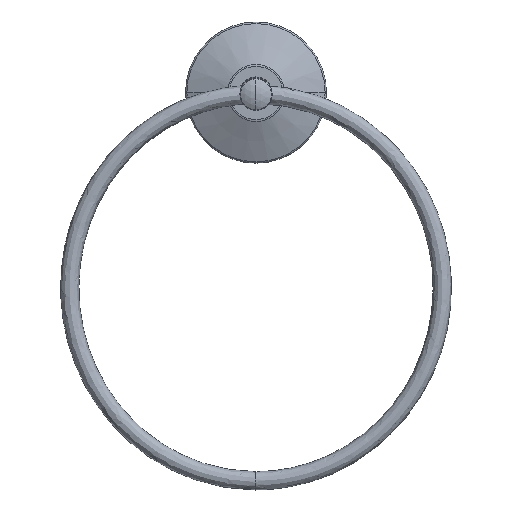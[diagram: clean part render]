
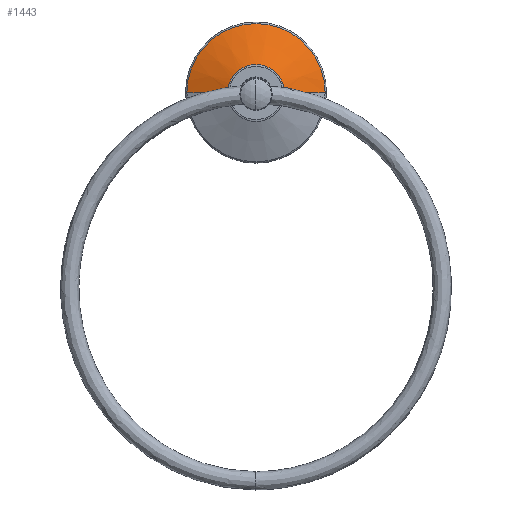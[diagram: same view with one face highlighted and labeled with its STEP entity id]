
A CAD part, front view. The second image highlights one B-rep face of the part: STEP entity #1443.
In plain terms, the highlighted conical face has half-angle 66.783 degrees and reference radius 12 mm.
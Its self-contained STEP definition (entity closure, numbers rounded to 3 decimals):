
#78 = ORIENTED_EDGE ( 'NONE', *, *, #2200, .T. ) ;
#120 = VERTEX_POINT ( 'NONE', #693 ) ;
#216 = ORIENTED_EDGE ( 'NONE', *, *, #823, .T. ) ;
#240 = CARTESIAN_POINT ( 'NONE',  ( 0., 35.457, 41.381 ) ) ;
#274 = CIRCLE ( 'NONE', #1709, 30.044 ) ;
#373 = VERTEX_POINT ( 'NONE', #2369 ) ;
#421 = EDGE_CURVE ( 'NONE', #1990, #1099, #816, .T. ) ;
#544 = DIRECTION ( 'NONE',  ( -1., 0., 0. ) ) ;
#618 = ORIENTED_EDGE ( 'NONE', *, *, #1725, .T. ) ;
#693 = CARTESIAN_POINT ( 'NONE',  ( 30.044, 35.457, 41.381 ) ) ;
#783 = AXIS2_PLACEMENT_3D ( 'NONE', #2395, #3238, #2669 ) ;
#799 = CARTESIAN_POINT ( 'NONE',  ( 12., 27.718, 41.246 ) ) ;
#810 = EDGE_LOOP ( 'NONE', ( #216, #78, #618, #2023 ) ) ;
#816 = LINE ( 'NONE', #3293, #2739 ) ;
#823 = EDGE_CURVE ( 'NONE', #1990, #373, #1658, .T. ) ;
#929 = CARTESIAN_POINT ( 'NONE',  ( -30.044, 35.457, 41.381 ) ) ;
#1099 = VERTEX_POINT ( 'NONE', #929 ) ;
#1443 = ADVANCED_FACE ( 'NONE', ( #2350 ), #2815, .T. ) ;
#1498 = DIRECTION ( 'NONE',  ( 0., 1., 0.017 ) ) ;
#1527 = VECTOR ( 'NONE', #2169, 1000. ) ;
#1658 = CIRCLE ( 'NONE', #783, 12.378 ) ;
#1709 = AXIS2_PLACEMENT_3D ( 'NONE', #240, #3541, #544 ) ;
#1725 = EDGE_CURVE ( 'NONE', #120, #1099, #274, .T. ) ;
#1864 = CARTESIAN_POINT ( 'NONE',  ( -12.378, 27.88, 41.249 ) ) ;
#1958 = LINE ( 'NONE', #799, #1527 ) ;
#1990 = VERTEX_POINT ( 'NONE', #1864 ) ;
#2023 = ORIENTED_EDGE ( 'NONE', *, *, #421, .F. ) ;
#2071 = DIRECTION ( 'NONE',  ( -1., 0., 0. ) ) ;
#2169 = DIRECTION ( 'NONE',  ( 0.919, 0.394, 0.007 ) ) ;
#2200 = EDGE_CURVE ( 'NONE', #373, #120, #1958, .T. ) ;
#2350 = FACE_OUTER_BOUND ( 'NONE', #810, .T. ) ;
#2369 = CARTESIAN_POINT ( 'NONE',  ( 12.378, 27.88, 41.249 ) ) ;
#2395 = CARTESIAN_POINT ( 'NONE',  ( 0., 27.88, 41.249 ) ) ;
#2669 = DIRECTION ( 'NONE',  ( 1., 0., 0. ) ) ;
#2713 = AXIS2_PLACEMENT_3D ( 'NONE', #2886, #1498, #2071 ) ;
#2739 = VECTOR ( 'NONE', #2746, 1000. ) ;
#2746 = DIRECTION ( 'NONE',  ( -0.919, 0.394, 0.007 ) ) ;
#2815 = CONICAL_SURFACE ( 'NONE', #2713, 12., 1.166 ) ;
#2886 = CARTESIAN_POINT ( 'NONE',  ( 0., 27.718, 41.246 ) ) ;
#3238 = DIRECTION ( 'NONE',  ( 0., 1., 0.017 ) ) ;
#3293 = CARTESIAN_POINT ( 'NONE',  ( -12., 27.718, 41.246 ) ) ;
#3541 = DIRECTION ( 'NONE',  ( 0., -1., -0.017 ) ) ;
